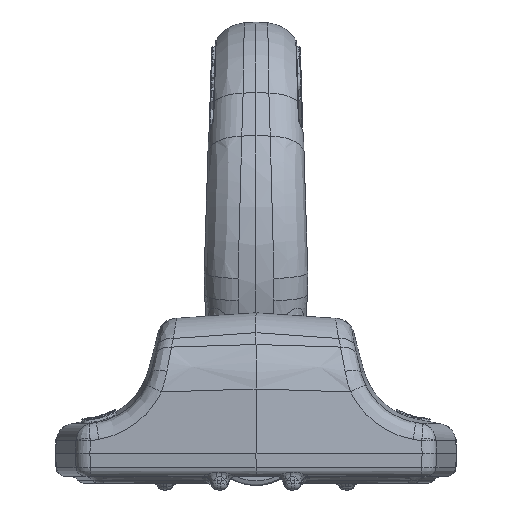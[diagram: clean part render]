
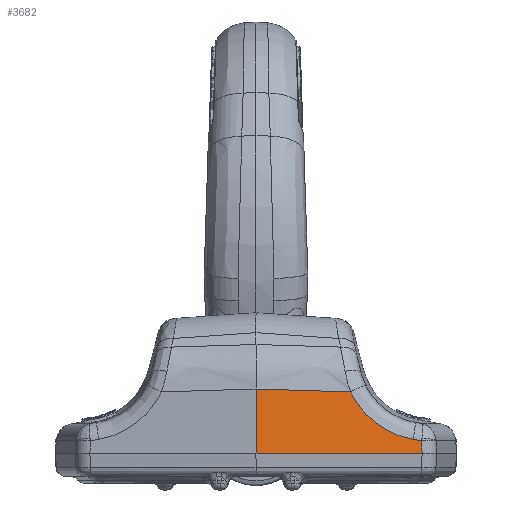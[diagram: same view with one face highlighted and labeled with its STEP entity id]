
A CAD part, left-side view. The second image highlights one B-rep face of the part: STEP entity #3682.
In plain terms, the highlighted planar face has unit normal (-0.996, -0.07, 0.052).
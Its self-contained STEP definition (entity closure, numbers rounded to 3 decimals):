
#2138=PLANE('',#31680);
#2563=ELLIPSE('',#31672,19.158,19.);
#3682=ADVANCED_FACE('',(#6313),#2138,.F.);
#6313=FACE_OUTER_BOUND('',#8270,.T.);
#8270=EDGE_LOOP('',(#14148,#14149,#14150,#14151,#14152,#14153));
#10217=(
BOUNDED_CURVE()
B_SPLINE_CURVE(3,(#62692,#62693,#62694,#62695,#62696),.UNSPECIFIED.,.F.,
 .F.)
B_SPLINE_CURVE_WITH_KNOTS((4,1,4),(0.,0.139,1.),.UNSPECIFIED.)
CURVE()
GEOMETRIC_REPRESENTATION_ITEM()
RATIONAL_B_SPLINE_CURVE((1.,1.,1.,1.,1.))
REPRESENTATION_ITEM('')
);
#10778=B_SPLINE_CURVE_WITH_KNOTS('',3,(#63889,#63890,#63891,#63892),.UNSPECIFIED.,
 .F.,.F.,(4,4),(0.,1.),.UNSPECIFIED.);
#14148=ORIENTED_EDGE('',*,*,#25007,.T.);
#14149=ORIENTED_EDGE('',*,*,#25005,.T.);
#14150=ORIENTED_EDGE('',*,*,#25015,.T.);
#14151=ORIENTED_EDGE('',*,*,#25016,.F.);
#14152=ORIENTED_EDGE('',*,*,#24965,.F.);
#14153=ORIENTED_EDGE('',*,*,#25014,.T.);
#21619=VERTEX_POINT('',#62689);
#21620=VERTEX_POINT('',#62697);
#21630=VERTEX_POINT('',#63061);
#21641=VERTEX_POINT('',#63595);
#21644=VERTEX_POINT('',#63718);
#21646=VERTEX_POINT('',#63893);
#24965=EDGE_CURVE('',#21619,#21620,#10217,.T.);
#25005=EDGE_CURVE('',#21644,#21641,#2563,.T.);
#25007=EDGE_CURVE('',#21630,#21644,#28556,.T.);
#25014=EDGE_CURVE('',#21619,#21630,#28563,.T.);
#25015=EDGE_CURVE('',#21641,#21646,#10778,.T.);
#25016=EDGE_CURVE('',#21620,#21646,#28564,.T.);
#28556=LINE('',#63873,#30011);
#28563=LINE('',#63887,#30018);
#28564=LINE('',#63894,#30019);
#30011=VECTOR('',#35216,1.);
#30018=VECTOR('',#35235,1.);
#30019=VECTOR('',#35238,1.);
#31672=AXIS2_PLACEMENT_3D('',#63727,#35213,#35214);
#31680=AXIS2_PLACEMENT_3D('',#63895,#35239,#35240);
#35213=DIRECTION('',(0.996,0.07,-0.052));
#35214=DIRECTION('',(-0.087,0.76,-0.644));
#35216=DIRECTION('',(-0.06,0.983,0.171));
#35235=DIRECTION('',(0.049,0.043,0.998));
#35238=DIRECTION('',(0.052,0.,0.999));
#35239=DIRECTION('',(0.996,0.07,-0.052));
#35240=DIRECTION('',(-0.052,0.,-0.999));
#62689=CARTESIAN_POINT('',(-81.892,-77.56,-3.896));
#62692=CARTESIAN_POINT('',(-81.446,-83.914,-3.896));
#62693=CARTESIAN_POINT('',(-81.586,-81.919,-3.896));
#62694=CARTESIAN_POINT('',(-82.59,-67.615,-3.896));
#62695=CARTESIAN_POINT('',(-83.594,-53.31,-3.896));
#62696=CARTESIAN_POINT('',(-84.458,-41.,-3.896));
#62697=CARTESIAN_POINT('',(-84.458,-41.,-3.896));
#63061=CARTESIAN_POINT('',(-81.757,-77.443,-1.173));
#63595=CARTESIAN_POINT('',(-82.29,-61.793,9.593));
#63718=CARTESIAN_POINT('',(-81.868,-75.615,-0.855));
#63727=CARTESIAN_POINT('',(-80.648,-78.965,17.903));
#63873=CARTESIAN_POINT('',(-82.299,-68.557,0.374));
#63887=CARTESIAN_POINT('',(-81.456,-77.182,4.897));
#63889=CARTESIAN_POINT('',(-82.29,-61.793,9.593));
#63890=CARTESIAN_POINT('',(-82.765,-54.863,9.802));
#63891=CARTESIAN_POINT('',(-83.241,-47.933,10.012));
#63892=CARTESIAN_POINT('',(-83.716,-41.003,10.223));
#63893=CARTESIAN_POINT('',(-83.716,-41.003,10.223));
#63894=CARTESIAN_POINT('',(-83.85,-41.,7.672));
#63895=CARTESIAN_POINT('',(-82.561,-59.422,7.604));
